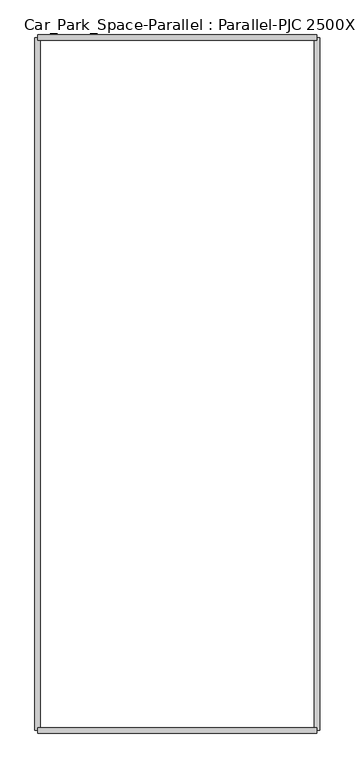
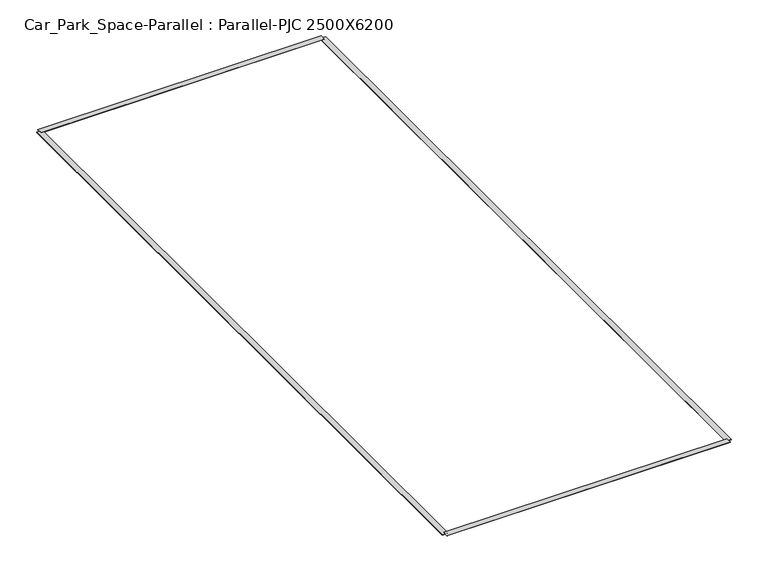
"""IFC4 building model written with IfcOpenShell, lengths in millimetres: proxy geometry, Car_Park_Space-Parallel : Parallel-PJC 2500X6200."""

from ifc_helpers import new_model, si_unit, origin, origin_with_axes, place, context, project, spatial, polyline, outline, extrude, source, transform, mapped, element, save


def car_park_space_parallel_parallel_pjc_2500x6200_3ebe62c2(model_context):
    return source(origin(), model_context, "Body", "SweptSolid", [
        extrude(outline(polyline([(2500.0, -6175.0), (2500.0, -6225.0), (0.0, -6225.0), (0.0, -6175.0), (2500.0, -6175.0)])), origin_with_axes(), (0.0, 0.0, 1.0), 3.175),
        extrude(outline(polyline([(2500.0, 25.0), (2500.0, -25.0), (0.0, -25.0), (0.0, 25.0), (2500.0, 25.0)])), origin_with_axes(), (0.0, 0.0, 1.0), 3.175),
        extrude(outline(polyline([(2475.0, 0.0), (2525.0, 0.0), (2525.0, -6200.0), (2475.0, -6200.0), (2475.0, 0.0)])), origin_with_axes(), (0.0, 0.0, 1.0), 3.175),
        extrude(outline(polyline([(-25.0, 0.0), (25.0, 0.0), (25.0, -6200.0), (-25.0, -6200.0), (-25.0, 0.0)])), origin_with_axes(), (0.0, 0.0, 1.0), 3.175),
    ])


if __name__ == "__main__":
    model = new_model("IFC4")
    model_context = context("Model", 3, world=origin())
    ifc_project = project(units=[si_unit("LENGTHUNIT", "METRE", prefix="MILLI")], contexts=[model_context])
    site = spatial("IfcSite", under=ifc_project)
    building = spatial("IfcBuilding", under=site)
    placement = place(None, origin())
    car_park_space_parallel_parallel_pjc_2500x6200_shape = car_park_space_parallel_parallel_pjc_2500x6200_3ebe62c2(model_context)
    element("IfcBuildingElementProxy", 1, Name="Car_Park_Space-Parallel : Parallel-PJC 2500X6200", ObjectType="Car_Park_Space-Parallel : Parallel-PJC 2500X6200", at=placement, inside=building, context=model_context, shape_type="MappedRepresentation", body=[
        mapped(car_park_space_parallel_parallel_pjc_2500x6200_shape, transform((0.0, 0.0, 0.0), x_axis=(1.0, 0.0, 0.0), y_axis=(0.0, 1.0, 0.0), z_axis=(0.0, 0.0, 1.0))),
    ])
    save(model, "model.ifc")
